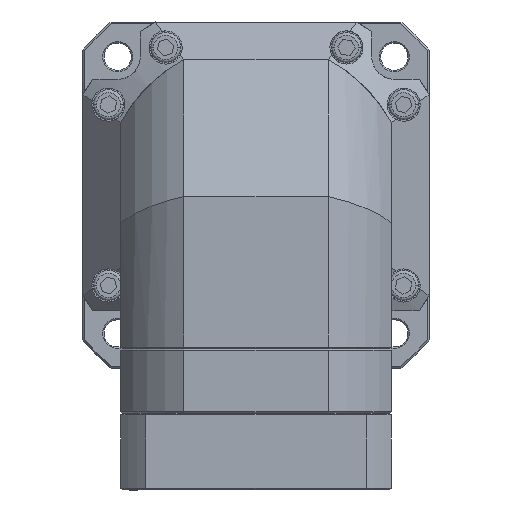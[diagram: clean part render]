
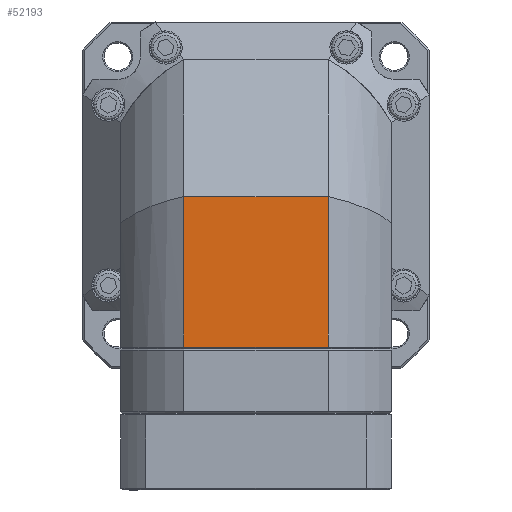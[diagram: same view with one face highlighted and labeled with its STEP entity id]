
A CAD part, front view. The second image highlights one B-rep face of the part: STEP entity #52193.
In plain terms, the highlighted planar face has unit normal (0, 1, 0).
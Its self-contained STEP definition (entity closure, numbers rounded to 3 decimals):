
#3386 = CARTESIAN_POINT ( 'NONE',  ( 0., -225.611, -0.5 ) ) ;
#5535 = LINE ( 'NONE', #46684, #59215 ) ;
#6326 = VERTEX_POINT ( 'NONE', #85241 ) ;
#10958 = VECTOR ( 'NONE', #85621, 1000. ) ;
#13318 = EDGE_CURVE ( 'NONE', #6326, #60442, #80844, .T. ) ;
#14769 = EDGE_LOOP ( 'NONE', ( #58883, #67134, #85926, #77459 ) ) ;
#17629 = DIRECTION ( 'NONE',  ( 0., 0., 1. ) ) ;
#23846 = AXIS2_PLACEMENT_3D ( 'NONE', #67984, #26014, #75061 ) ;
#24953 = VECTOR ( 'NONE', #17629, 1000. ) ;
#26014 = DIRECTION ( 'NONE',  ( 0., -1., 0. ) ) ;
#26250 = VECTOR ( 'NONE', #80574, 1000. ) ;
#29537 = VERTEX_POINT ( 'NONE', #38134 ) ;
#30519 = CARTESIAN_POINT ( 'NONE',  ( 24., -225.611, -50.5 ) ) ;
#38134 = CARTESIAN_POINT ( 'NONE',  ( 24., -225.611, -0.5 ) ) ;
#39877 = PLANE ( 'NONE',  #23846 ) ;
#41957 = EDGE_CURVE ( 'NONE', #6326, #89257, #5535, .T. ) ;
#46684 = CARTESIAN_POINT ( 'NONE',  ( 0., -225.611, -50.5 ) ) ;
#48310 = LINE ( 'NONE', #78587, #10958 ) ;
#52193 = ADVANCED_FACE ( 'NONE', ( #68898 ), #39877, .F. ) ;
#52196 = CARTESIAN_POINT ( 'NONE',  ( -24., -225.611, -0.5 ) ) ;
#52607 = CARTESIAN_POINT ( 'NONE',  ( -24., -225.611, -25.35 ) ) ;
#58883 = ORIENTED_EDGE ( 'NONE', *, *, #73386, .T. ) ;
#59215 = VECTOR ( 'NONE', #60997, 1000. ) ;
#60442 = VERTEX_POINT ( 'NONE', #52196 ) ;
#60997 = DIRECTION ( 'NONE',  ( 1., 0., 0. ) ) ;
#64543 = EDGE_CURVE ( 'NONE', #60442, #29537, #84359, .T. ) ;
#67134 = ORIENTED_EDGE ( 'NONE', *, *, #41957, .F. ) ;
#67984 = CARTESIAN_POINT ( 'NONE',  ( -24., -225.611, -50.5 ) ) ;
#68898 = FACE_OUTER_BOUND ( 'NONE', #14769, .T. ) ;
#73386 = EDGE_CURVE ( 'NONE', #29537, #89257, #48310, .T. ) ;
#75061 = DIRECTION ( 'NONE',  ( 1., 0., 0. ) ) ;
#77459 = ORIENTED_EDGE ( 'NONE', *, *, #64543, .T. ) ;
#78587 = CARTESIAN_POINT ( 'NONE',  ( 24., -225.611, -25.35 ) ) ;
#80574 = DIRECTION ( 'NONE',  ( 1., 0., 0. ) ) ;
#80844 = LINE ( 'NONE', #52607, #24953 ) ;
#84359 = LINE ( 'NONE', #3386, #26250 ) ;
#85241 = CARTESIAN_POINT ( 'NONE',  ( -24., -225.611, -50.5 ) ) ;
#85621 = DIRECTION ( 'NONE',  ( 0., 0., -1. ) ) ;
#85926 = ORIENTED_EDGE ( 'NONE', *, *, #13318, .T. ) ;
#89257 = VERTEX_POINT ( 'NONE', #30519 ) ;
